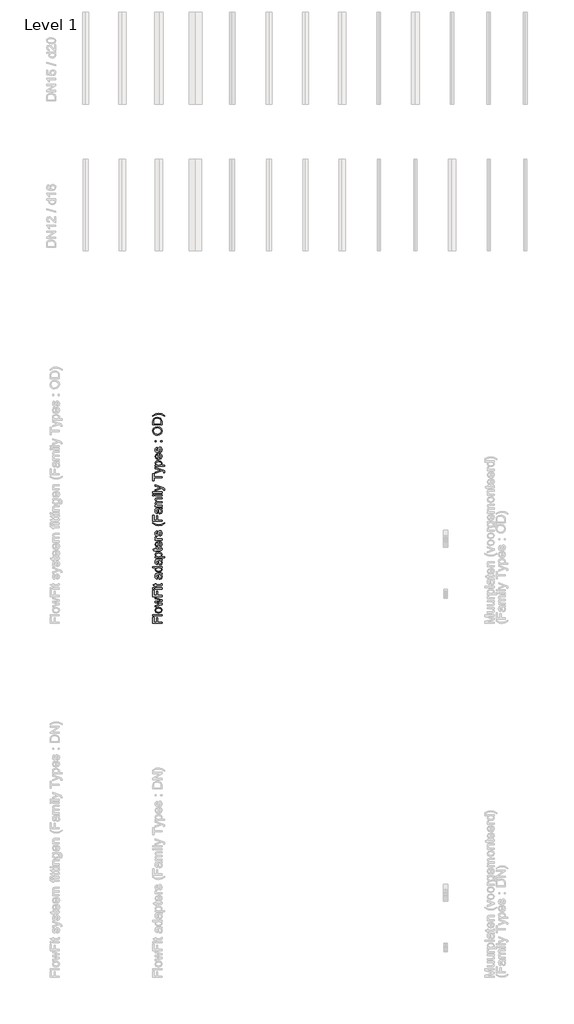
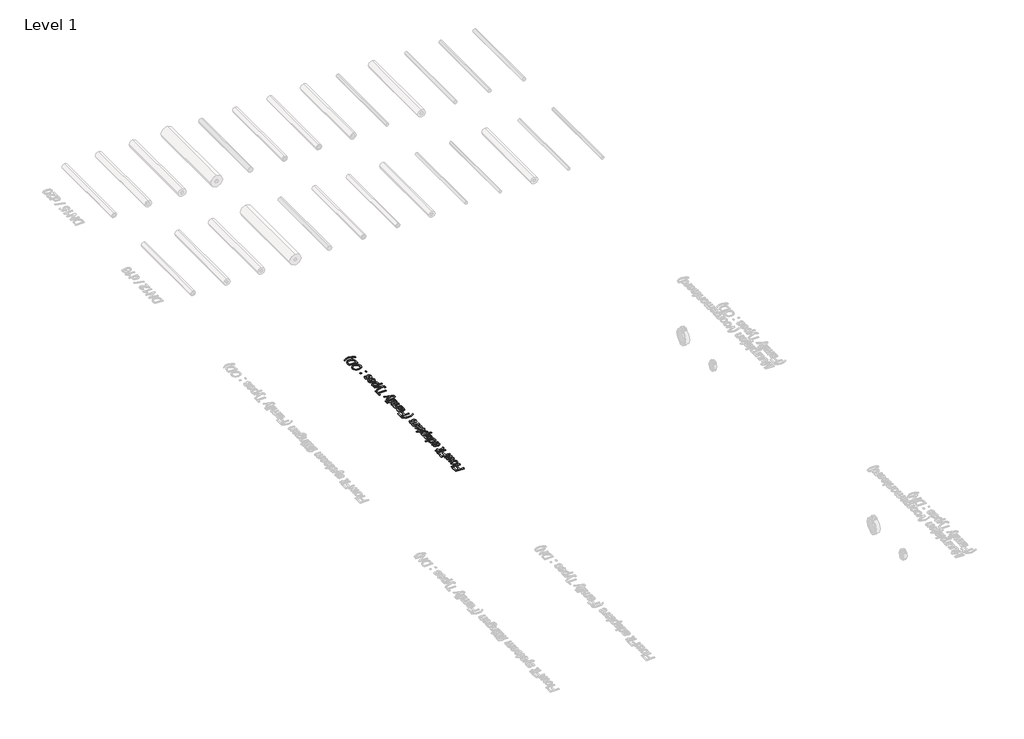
# One storey, part 7 of 11: 1 proxy.
"""IFC4 building model written with IfcOpenShell, lengths in millimetres."""

import ifcopenshell
import ifcopenshell.guid

model = None  # the IFC model being written
_history = None  # IfcOwnerHistory: only IFC2X3 demands one
_inside = {}  # id of a spatial element -> (the spatial element, [elements in it])
_under = {}  # id of a project, library or spatial element -> (it, [spatial elements below it])
_declared = {}  # id of a project -> (the project, [libraries it declares])
_typed = {}  # id of a type object -> (the type object, [elements of that type])
_made_of = {}  # id of a material, layer set ... -> (it, [elements and type objects made of it])


def new_model(schema):
    """Start an empty IFC model of exactly this schema.

    Asked for "IFC4X3", IfcOpenShell would pick the latest addendum, in which some entities
    have other attributes; the version numbers below select the first issue.
    IFC2X3 requires an IfcOwnerHistory on every rooted entity: one is made here for all.
    """
    global model, _history
    if schema == "IFC4X3":
        model = ifcopenshell.file(schema_version=(4, 3, 0, 0))
    else:
        model = ifcopenshell.file(schema=schema)
    _inside.clear()
    _under.clear()
    _declared.clear()
    _typed.clear()
    _made_of.clear()
    _history = None
    if model.schema == "IFC2X3":
        org = make("IfcOrganization", Name="unknown")
        user = make(
            "IfcPersonAndOrganization",
            ThePerson=make("IfcPerson", FamilyName="unknown"),
            TheOrganization=org,
        )
        app = make(
            "IfcApplication",
            ApplicationDeveloper=org,
            Version="unknown",
            ApplicationFullName="unknown",
            ApplicationIdentifier="unknown",
        )
        _history = make(
            "IfcOwnerHistory",
            OwningUser=user,
            OwningApplication=app,
            ChangeAction="ADDED",
            CreationDate=0,
        )
    return model


def make(cls, **values):
    """One entity of the class cls with the attributes given. An attribute that is None is left unset."""
    return model.create_entity(
        cls, **{name: value for name, value in values.items() if value is not None}
    )


def rooted(cls, **values):
    """An entity with a GlobalId (a new one), such as an element, a storey or a relation."""
    return make(cls, GlobalId=ifcopenshell.guid.new(), OwnerHistory=_history, **values)


def si_unit(unit_type, name, prefix=None):
    """IfcSIUnit, for example si_unit("LENGTHUNIT", "METRE", prefix="MILLI")."""
    return make("IfcSIUnit", UnitType=unit_type, Prefix=prefix, Name=name)


def assignment(units):
    """IfcUnitAssignment: the units of a project."""
    return None if units is None else make("IfcUnitAssignment", Units=units)


def point(xyz):
    """IfcCartesianPoint."""
    return None if xyz is None else make("IfcCartesianPoint", Coordinates=xyz)


def direction(xyz):
    """IfcDirection."""
    return None if xyz is None else make("IfcDirection", DirectionRatios=xyz)


def frame(location, z_axis=None, x_axis=None):
    """IfcAxis2Placement3D, a coordinate frame: its origin and axes. An axis left out is left unset."""
    return make(
        "IfcAxis2Placement3D",
        Location=point(location),
        Axis=direction(z_axis),
        RefDirection=direction(x_axis),
    )


def origin():
    """The frame at (0, 0, 0) with its axes left unset."""
    return frame((0.0, 0.0, 0.0))


def origin_with_axes():
    """The frame at (0, 0, 0) with the z axis (0, 0, 1) and the x axis (1, 0, 0) written out."""
    return frame((0.0, 0.0, 0.0), z_axis=(0.0, 0.0, 1.0), x_axis=(1.0, 0.0, 0.0))


def place(relative_to, where):
    """IfcLocalPlacement: puts the frame where relative to a parent placement (None: the world)."""
    return make(
        "IfcLocalPlacement", PlacementRelTo=relative_to, RelativePlacement=where
    )


def context(
    kind, dimensions, precision=None, world=None, true_north=None, identifier=None
):
    """IfcGeometricRepresentationContext, for example the 3D "Model" context."""
    return make(
        "IfcGeometricRepresentationContext",
        ContextIdentifier=identifier,
        ContextType=kind,
        CoordinateSpaceDimension=dimensions,
        Precision=precision,
        WorldCoordinateSystem=world,
        TrueNorth=true_north,
    )


def project(units=None, contexts=None):
    """IfcProject with its units and contexts."""
    return rooted(
        "IfcProject",
        Name="project",
        RepresentationContexts=contexts,
        UnitsInContext=assignment(units),
    )


def spatial(cls, under=None, at=None, **own):
    """A site, building, storey or space (cls), placed at a placement, below another one or the project."""
    s = rooted(cls, ObjectPlacement=at, **own)
    if under is not None:
        _under.setdefault(under.id(), (under, []))[1].append(s)
    return s


def polyline(points):
    """IfcPolyline through the points."""
    return make("IfcPolyline", Points=[point(p) for p in points])


def outline(outer, holes=None, kind="AREA"):
    """IfcArbitraryClosedProfileDef: a profile drawn as a closed curve; with holes, ...WithVoids."""
    if holes is None:
        return make("IfcArbitraryClosedProfileDef", ProfileType=kind, OuterCurve=outer)
    return make(
        "IfcArbitraryProfileDefWithVoids",
        ProfileType=kind,
        OuterCurve=outer,
        InnerCurves=holes,
    )


def extrude(swept, where, along, depth):
    """IfcExtrudedAreaSolid: the profile swept, set in the frame where, extruded along a direction by depth."""
    return make(
        "IfcExtrudedAreaSolid",
        SweptArea=swept,
        Position=where,
        ExtrudedDirection=direction(along),
        Depth=depth,
    )


def shape(context_of_items, identifier, shape_type, items):
    """IfcShapeRepresentation: the items that make up one representation, for example the "Body"."""
    return make(
        "IfcShapeRepresentation",
        ContextOfItems=context_of_items,
        RepresentationIdentifier=identifier,
        RepresentationType=shape_type,
        Items=items,
    )


def made_of(thing, what):
    """Note that an element or type object is made of a material, layer set ...; save() writes the relation."""
    if what is not None:
        _made_of.setdefault(what.id(), (what, []))[1].append(thing)
    return thing


def element(
    cls,
    number,
    at=None,
    inside=None,
    cuts=None,
    type_object=None,
    material=None,
    context=None,
    identifier="Body",
    shape_type=None,
    held_by="IfcProductDefinitionShape",
    body=None,
    shapes=None,
    **own,
):
    """One element of the class cls, such as IfcWall. Its Tag is "e" and its number.

    at: its placement. inside: the storey or other place that contains it. cuts: it is an
    opening in that element (IfcRelVoidsElement). A single representation is given by context,
    identifier, shape_type and body (its items); several are given by shapes. held_by: the class
    of the entity that holds the representations. save() writes the other relations.
    """
    e = rooted(cls, Tag="e%d" % number, ObjectPlacement=at, **own)
    if body is not None:
        shapes = [shape(context, identifier, shape_type, body)]
    if shapes is not None:
        e.Representation = make(held_by, Representations=shapes)
    if inside is not None:
        _inside.setdefault(inside.id(), (inside, []))[1].append(e)
    if cuts is not None:
        rooted(
            "IfcRelVoidsElement", RelatingBuildingElement=cuts, RelatedOpeningElement=e
        )
    if type_object is not None:
        _typed.setdefault(type_object.id(), (type_object, []))[1].append(e)
    return made_of(e, material)


def aggregate(whole, parts):
    """IfcRelAggregates: a whole, such as a stair, and the parts it consists of."""
    return rooted("IfcRelAggregates", RelatingObject=whole, RelatedObjects=parts)


def save(model, path):
    """Write the relations noted so far, then the file.

    IfcRelAggregates (storeys below a building ...), IfcRelContainedInSpatialStructure (elements
    in a storey), IfcRelDefinesByType, IfcRelAssociatesMaterial and IfcRelDeclares: one each for
    every whole, place, type object, material and project.
    """
    for whole, parts in _under.values():
        aggregate(whole, parts)
    for where, things in _inside.values():
        rooted(
            "IfcRelContainedInSpatialStructure",
            RelatedElements=things,
            RelatingStructure=where,
        )
    for kind, things in _typed.values():
        rooted("IfcRelDefinesByType", RelatedObjects=things, RelatingType=kind)
    for what, things in _made_of.values():
        rooted("IfcRelAssociatesMaterial", RelatedObjects=things, RelatingMaterial=what)
    for by, libraries in _declared.values():
        rooted("IfcRelDeclares", RelatingContext=by, RelatedDefinitions=libraries)
    model.write(path)


model = new_model("IFC4")

# Units and contexts
model_context = context("Model", 3, world=origin())
ifc_project = project(units=[si_unit("LENGTHUNIT", "METRE", prefix="MILLI")], contexts=[model_context])

# Site, building, storey
site = spatial("IfcSite", under=ifc_project)
building = spatial("IfcBuilding", under=site)
storey = spatial("IfcBuildingStorey", under=building, Name="Level 1", Elevation=0.0)

# Proxy
placement = place(None, origin())
element("IfcBuildingElementProxy", 1, Name="S", ObjectType="S", at=placement, inside=storey, context=model_context, shape_type="SweptSolid", body=[
    extrude(outline(polyline([(751.7931305, 2058.4123634), (701.5649754, 2058.4123634), (701.5649754, 2092.1594051), (707.8434948, 2092.1594051), (707.8434948, 2064.6908828), (722.7549783, 2064.6908828), (722.7549783, 2088.2353305), (729.0334977, 2088.2353305), (729.0334977, 2064.6908828), (751.7931305, 2064.6908828), (751.7931305, 2058.4123634)])), origin_with_axes(), (0.0, 0.0, 1.0), 3.0),
    extrude(outline(polyline([(751.7931305, 2100.0075544), (701.5649754, 2100.0075544), (701.5649754, 2106.2860737), (751.7931305, 2106.2860737), (751.7931305, 2100.0075544)])), origin_with_axes(), (0.0, 0.0, 1.0), 3.0),
    extrude(outline(polyline([(733.3499798, 2114.134223), (724.4564326, 2115.4923207), (718.2055043, 2119.5666138), (714.1220142, 2130.6275991), (719.0945525, 2142.4917934), (732.834945, 2147.0964497), (744.0062949, 2145.060836), (750.3277339, 2139.1318045), (752.5779454, 2130.6275991), (747.6238012, 2118.6898283), (733.3499798, 2114.134223)]), holes=[polyline([(733.3377171, 2120.4127424), (743.0681958, 2123.3190101), (746.299426, 2130.6275991), (743.0498017, 2137.9116626), (733.1415133, 2140.8179304), (723.6317638, 2137.8932685), (720.4005336, 2130.6275991), (723.619501, 2123.3190101), (733.3377171, 2120.4127424)])]), origin_with_axes(), (0.0, 0.0, 1.0), 3.0),
    extrude(outline(polyline([(751.7931305, 2160.2788879), (714.9068291, 2149.058487), (714.9068291, 2155.5822611), (736.4279258, 2161.9466196), (744.1166595, 2163.8473433), (736.7099687, 2165.4047104), (714.9068291, 2170.4692192), (714.9068291, 2177.9494864), (736.648655, 2182.9894697), (743.3563701, 2184.3751586), (736.280773, 2186.3617214), (714.9068291, 2192.7383426), (714.9068291, 2199.2866421), (751.7931305, 2187.9804021), (751.7931305, 2180.3897703), (730.1616692, 2175.5705162), (723.4171659, 2174.1725646), (751.7931305, 2167.9553589), (751.7931305, 2160.2788879)])), origin_with_axes(), (0.0, 0.0, 1.0), 3.0),
    extrude(outline(polyline([(751.7931305, 2204.3879391), (701.5649754, 2204.3879391), (701.5649754, 2238.1349808), (707.8434948, 2238.1349808), (707.8434948, 2210.6664585), (722.7549783, 2210.6664585), (722.7549783, 2234.2109062), (729.0334977, 2234.2109062), (729.0334977, 2210.6664585), (751.7931305, 2210.6664585), (751.7931305, 2204.3879391)])), origin_with_axes(), (0.0, 0.0, 1.0), 3.0),
    extrude(outline(polyline([(751.7931305, 2245.98313), (714.9068291, 2245.98313), (714.9068291, 2252.2616494), (751.7931305, 2252.2616494), (751.7931305, 2245.98313)])), origin_with_axes(), (0.0, 0.0, 1.0), 3.0),
    extrude(outline(polyline([(707.8434948, 2245.98313), (701.5649754, 2245.98313), (701.5649754, 2252.2616494), (707.8434948, 2252.2616494), (707.8434948, 2245.98313)])), origin_with_axes(), (0.0, 0.0, 1.0), 3.0),
    extrude(outline(polyline([(746.5569434, 2275.0212822), (751.9770715, 2275.8060971), (752.5779454, 2271.1094703), (751.5356131, 2265.8487578), (748.8010236, 2263.2245329), (741.6763756, 2262.4642434), (721.1853485, 2262.4642434), (721.1853485, 2257.7553539), (714.9068291, 2257.7553539), (714.9068291, 2262.4642434), (705.9427712, 2262.4642434), (702.2516885, 2268.7427628), (714.9068291, 2268.7427628), (714.9068291, 2275.0212822), (721.1853485, 2275.0212822), (721.1853485, 2268.7427628), (741.4924346, 2268.7427628), (744.7297962, 2269.0738566), (746.299426, 2272.2866927), (746.5569434, 2275.0212822)])), origin_with_axes(), (0.0, 0.0, 1.0), 3.0),
    extrude(outline(polyline([(747.084241, 2324.4646223), (751.3394094, 2318.3761753), (752.5779454, 2311.6500662), (749.5981013, 2302.5327241), (741.982944, 2299.3505448), (737.016537, 2300.5522927), (733.4112935, 2303.7099465), (731.3511543, 2308.1061363), (730.4069238, 2313.5385271), (728.2486828, 2324.4278341), (722.2154181, 2322.735577), (720.4005336, 2315.79487), (721.6084128, 2309.4427742), (725.894238, 2306.4138791), (725.1094231, 2300.1353597), (718.9780565, 2302.8515551), (715.3850757, 2308.3207341), (714.1220142, 2316.6042104), (715.2379229, 2324.2132363), (718.0399574, 2328.5113243), (722.3012572, 2330.4365734), (727.7949617, 2330.7431417), (735.6063227, 2330.7431417), (746.5140239, 2331.0619728), (751.7931305, 2332.3127716), (751.7931305, 2326.0342522), (747.084241, 2324.4646223)]), holes=[polyline([(734.5272022, 2324.4646223), (736.4524513, 2314.3356047), (737.4702581, 2308.9338708), (739.1257271, 2306.4874555), (741.5414856, 2305.6290642), (744.9382626, 2307.499131), (746.299426, 2312.9867041), (744.7972412, 2319.3387999), (741.1613408, 2323.4345528), (736.3052985, 2324.4278341), (734.5272022, 2324.4646223)])]), origin_with_axes(), (0.0, 0.0, 1.0), 3.0),
    extrude(outline(polyline([(751.7931305, 2362.1357387), (745.8702304, 2362.1357387), (750.9010167, 2357.9817378), (752.5779454, 2352.239713), (750.1499242, 2344.4651402), (743.3747642, 2338.9714357), (733.386768, 2337.0216611), (723.3926405, 2338.8181515), (716.5132472, 2344.2014914), (714.1220142, 2352.2151875), (715.8326655, 2358.0031976), (720.2779062, 2362.1357387), (701.5649754, 2362.1357387), (701.5649754, 2368.414258), (751.7931305, 2368.414258), (751.7931305, 2362.1357387)]), holes=[polyline([(733.3622425, 2343.3001805), (743.0804586, 2346.1328719), (746.299426, 2352.8160614), (743.2276114, 2359.4195433), (733.8404891, 2362.1357387), (723.6501579, 2359.3704923), (720.4005336, 2352.558544), (723.5213992, 2345.9489309), (733.3622425, 2343.3001805)])]), origin_with_axes(), (0.0, 0.0, 1.0), 3.0),
    extrude(outline(polyline([(747.084241, 2401.3764848), (751.3394094, 2395.2880378), (752.5779454, 2388.5619286), (749.5981013, 2379.4445865), (741.982944, 2376.2624073), (737.016537, 2377.4641551), (733.4112935, 2380.6218089), (731.3511543, 2385.0179988), (730.4069238, 2390.4503895), (728.2486828, 2401.3396966), (722.2154181, 2399.6474394), (720.4005336, 2392.7067325), (721.6084128, 2386.3546367), (725.894238, 2383.3257416), (725.1094231, 2377.0472222), (718.9780565, 2379.7634176), (715.3850757, 2385.2325966), (714.1220142, 2393.5160728), (715.2379229, 2401.1250988), (718.0399574, 2405.4231868), (722.3012572, 2407.3484359), (727.7949617, 2407.6550042), (735.6063227, 2407.6550042), (746.5140239, 2407.9738353), (751.7931305, 2409.224634), (751.7931305, 2402.9461147), (747.084241, 2401.3764848)]), holes=[polyline([(734.5272022, 2401.3764848), (736.4524513, 2391.2474672), (737.4702581, 2385.8457332), (739.1257271, 2383.399318), (741.5414856, 2382.5409267), (744.9382626, 2384.4109935), (746.299426, 2389.8985666), (744.7972412, 2396.2506623), (741.1613408, 2400.3464152), (736.3052985, 2401.3396966), (734.5272022, 2401.3764848)])]), origin_with_axes(), (0.0, 0.0, 1.0), 3.0),
    extrude(outline(polyline([(765.9197991, 2416.2879683), (714.9068291, 2416.2879683), (714.9068291, 2422.5664877), (721.0627212, 2422.5664877), (715.8571909, 2426.9074953), (714.1220142, 2432.7690817), (716.5500354, 2440.7275956), (723.3926405, 2445.9269944), (733.0679369, 2447.6805653), (743.2398741, 2445.7001339), (750.1683183, 2439.948912), (752.5779454, 2432.0087923), (750.965396, 2426.5457446), (746.8880372, 2422.5664877), (765.9197991, 2422.5664877), (765.9197991, 2416.2879683)]), holes=[polyline([(733.6442854, 2422.5664877), (743.2092173, 2425.2826831), (746.299426, 2431.8739022), (743.0988527, 2438.6000114), (733.1783015, 2441.4020459), (723.5888442, 2438.6674564), (720.4005336, 2432.1314196), (723.7911793, 2425.4666241), (733.6442854, 2422.5664877)])]), origin_with_axes(), (0.0, 0.0, 1.0), 3.0),
    extrude(outline(polyline([(746.5569434, 2468.0857533), (751.9770715, 2468.8705682), (752.5779454, 2464.1739414), (751.5356131, 2458.9132289), (748.8010236, 2456.289004), (741.6763756, 2455.5287145), (721.1853485, 2455.5287145), (721.1853485, 2450.819825), (714.9068291, 2450.819825), (714.9068291, 2455.5287145), (705.9427712, 2455.5287145), (702.2516885, 2461.8072339), (714.9068291, 2461.8072339), (714.9068291, 2468.0857533), (721.1853485, 2468.0857533), (721.1853485, 2461.8072339), (741.4924346, 2461.8072339), (744.7297962, 2462.1383277), (746.299426, 2465.3511638), (746.5569434, 2468.0857533)])), origin_with_axes(), (0.0, 0.0, 1.0), 3.0),
    extrude(outline(polyline([(740.8057216, 2500.1895887), (741.5905365, 2506.3454808), (749.6962031, 2500.5881275), (752.5779454, 2489.8643674), (747.6054071, 2476.829082), (733.6565481, 2472.0098279), (719.2478367, 2476.8781329), (714.1220142, 2489.5087481), (719.2355739, 2501.7776127), (733.6197599, 2506.5416845), (735.3120171, 2506.5048963), (735.3120171, 2478.2883473), (743.4667347, 2481.8997222), (746.299426, 2489.9869947), (744.9873136, 2496.1428868), (740.8057216, 2500.1895887)]), holes=[polyline([(729.0334977, 2478.2883473), (729.0334977, 2500.2631651), (723.3435895, 2497.7493048), (720.4005336, 2489.4842227), (722.748847, 2481.7525694), (729.0334977, 2478.2883473)])]), origin_with_axes(), (0.0, 0.0, 1.0), 3.0),
    extrude(outline(polyline([(751.7931305, 2512.8202039), (714.9068291, 2512.8202039), (714.9068291, 2518.3139083), (720.3637454, 2518.3139083), (715.3360248, 2522.2134575), (714.1220142, 2526.1375321), (716.059526, 2532.440577), (721.6881206, 2530.3436496), (720.4005336, 2525.9290656), (721.6390696, 2522.3790044), (725.0726349, 2520.1165301), (732.4057493, 2519.0987233), (751.7931305, 2519.0987233), (751.7931305, 2512.8202039)])), origin_with_axes(), (0.0, 0.0, 1.0), 3.0),
    extrude(outline(polyline([(740.8057216, 2534.0102068), (740.0209066, 2540.2887262), (744.6807453, 2543.1949939), (746.299426, 2549.8536581), (744.8156353, 2556.2548048), (741.3330191, 2558.3394694), (738.5125905, 2556.242542), (736.7222314, 2549.7800817), (733.6504168, 2540.3255144), (730.0635673, 2536.1991047), (724.9990585, 2534.7950217), (720.3208258, 2535.9231932), (716.7462391, 2539.0011392), (714.888435, 2542.9926588), (714.1220142, 2548.3943928), (715.3544189, 2556.0340756), (718.6898823, 2560.8901179), (724.3246082, 2563.048359), (725.1094231, 2556.7698396), (721.645201, 2554.4092634), (720.4005336, 2548.8849021), (721.5900187, 2542.8761629), (724.3613964, 2541.0735411), (726.1885436, 2541.8215678), (727.5742325, 2544.1637499), (728.9108704, 2549.5716152), (731.8661891, 2558.7870592), (735.2139152, 2563.0667531), (740.6708315, 2564.6179888), (746.6795708, 2562.7969729), (751.0389724, 2557.5423918), (752.5779454, 2549.7678189), (749.610364, 2538.8171982), (740.8057216, 2534.0102068)])), origin_with_axes(), (0.0, 0.0, 1.0), 3.0),
    extrude(outline(polyline([(765.9197991, 2603.858735), (751.1922566, 2594.9437279), (733.7055991, 2591.3016962), (718.4384963, 2594.0240229), (701.5649754, 2603.858735), (701.5649754, 2608.5676245), (711.510052, 2602.6937753), (721.1485603, 2599.1621081), (733.7423873, 2597.5802156), (749.8372246, 2600.3270678), (765.9197991, 2608.5676245), (765.9197991, 2603.858735)])), origin_with_axes(), (0.0, 0.0, 1.0), 3.0),
    extrude(outline(polyline([(751.7931305, 2615.6309588), (701.5649754, 2615.6309588), (701.5649754, 2649.3780005), (707.8434948, 2649.3780005), (707.8434948, 2621.9094782), (722.7549783, 2621.9094782), (722.7549783, 2645.4539259), (729.0334977, 2645.4539259), (729.0334977, 2621.9094782), (751.7931305, 2621.9094782), (751.7931305, 2615.6309588)])), origin_with_axes(), (0.0, 0.0, 1.0), 3.0),
    extrude(outline(polyline([(747.084241, 2680.7705974), (751.3394094, 2674.6821504), (752.5779454, 2667.9560412), (749.5981013, 2658.8386991), (741.982944, 2655.6565199), (737.016537, 2656.8582677), (733.4112935, 2660.0159215), (731.3511543, 2664.4121114), (730.4069238, 2669.8445022), (728.2486828, 2680.7338092), (722.2154181, 2679.041552), (720.4005336, 2672.1008451), (721.6084128, 2665.7487493), (725.894238, 2662.7198542), (725.1094231, 2656.4413348), (718.9780565, 2659.1575302), (715.3850757, 2664.6267092), (714.1220142, 2672.9101854), (715.2379229, 2680.5192114), (718.0399574, 2684.8172994), (722.3012572, 2686.7425485), (727.7949617, 2687.0491168), (735.6063227, 2687.0491168), (746.5140239, 2687.3679479), (751.7931305, 2688.6187466), (751.7931305, 2682.3402273), (747.084241, 2680.7705974)]), holes=[polyline([(734.5272022, 2680.7705974), (736.4524513, 2670.6415798), (737.4702581, 2665.2398458), (739.1257271, 2662.7934306), (741.5414856, 2661.9350393), (744.9382626, 2663.8051061), (746.299426, 2669.2926792), (744.7972412, 2675.6447749), (741.1613408, 2679.7405278), (736.3052985, 2680.7338092), (734.5272022, 2680.7705974)])]), origin_with_axes(), (0.0, 0.0, 1.0), 3.0),
    extrude(outline(polyline([(751.7931305, 2695.6820809), (714.9068291, 2695.6820809), (714.9068291, 2701.9606003), (720.976882, 2701.9606003), (716.0043437, 2706.2770824), (714.1220142, 2712.4207117), (716.0411319, 2718.7114938), (721.4183404, 2722.1695846), (715.9460957, 2727.0685465), (714.1220142, 2733.2550954), (717.1570406, 2741.4649952), (726.5073747, 2744.3406062), (751.7931305, 2744.3406062), (751.7931305, 2738.0620868), (729.205176, 2738.0620868), (723.9628576, 2737.479607), (721.3815522, 2735.3704169), (720.4005336, 2731.7835674), (722.9143939, 2725.6092813), (730.9710096, 2723.1506033), (751.7931305, 2723.1506033), (751.7931305, 2716.8720839), (728.5062002, 2716.8720839), (722.4238845, 2715.41895), (720.4005336, 2710.6548782), (721.7494342, 2706.0073023), (725.6980343, 2702.9170935), (733.1905643, 2701.9606003), (751.7931305, 2701.9606003), (751.7931305, 2695.6820809)])), origin_with_axes(), (0.0, 0.0, 1.0), 3.0),
    extrude(outline(polyline([(707.8434948, 2753.7583853), (701.5649754, 2753.7583853), (701.5649754, 2760.0369046), (707.8434948, 2760.0369046), (707.8434948, 2753.7583853)])), origin_with_axes(), (0.0, 0.0, 1.0), 3.0),
    extrude(outline(polyline([(751.7931305, 2753.7583853), (714.9068291, 2753.7583853), (714.9068291, 2760.0369046), (751.7931305, 2760.0369046), (751.7931305, 2753.7583853)])), origin_with_axes(), (0.0, 0.0, 1.0), 3.0),
    extrude(outline(polyline([(751.7931305, 2769.4546837), (701.5649754, 2769.4546837), (701.5649754, 2775.7332031), (751.7931305, 2775.7332031), (751.7931305, 2769.4546837)])), origin_with_axes(), (0.0, 0.0, 1.0), 3.0),
    extrude(outline(polyline([(765.9197991, 2785.1509822), (759.8742717, 2784.3661673), (760.4260946, 2787.5544779), (759.7332502, 2790.534322), (757.8018697, 2792.3614693), (753.1788193, 2794.0782519), (751.6582404, 2794.5687613), (714.9068291, 2781.2269076), (714.9068291, 2787.8487835), (735.3855935, 2794.9243805), (743.5770993, 2797.3891899), (736.3420867, 2799.8539992), (714.9068291, 2807.1258), (714.9068291, 2813.698625), (752.6760473, 2800.8595434), (760.867553, 2797.5240799), (765.2943997, 2793.8820482), (766.704614, 2788.9892177), (765.9197991, 2785.1509822)])), origin_with_axes(), (0.0, 0.0, 1.0), 3.0),
    extrude(outline(polyline([(751.7931305, 2851.8602506), (707.8434948, 2851.8602506), (707.8434948, 2835.3791372), (701.5649754, 2835.3791372), (701.5649754, 2874.6198834), (707.8434948, 2874.6198834), (707.8434948, 2858.13877), (751.7931305, 2858.13877), (751.7931305, 2851.8602506)])), origin_with_axes(), (0.0, 0.0, 1.0), 3.0),
    extrude(outline(polyline([(765.9197991, 2880.8984028), (759.8742717, 2880.1135879), (760.4260946, 2883.3018985), (759.7332502, 2886.2817426), (757.8018697, 2888.1088899), (753.1788193, 2889.8256725), (751.6582404, 2890.3161819), (714.9068291, 2876.9743282), (714.9068291, 2883.5962041), (735.3855935, 2890.6718011), (743.5770993, 2893.1366105), (736.3420867, 2895.6014199), (714.9068291, 2902.8732206), (714.9068291, 2909.4460456), (752.6760473, 2896.606964), (760.867553, 2893.2715006), (765.2943997, 2889.6294688), (766.704614, 2884.7366383), (765.9197991, 2880.8984028)])), origin_with_axes(), (0.0, 0.0, 1.0), 3.0),
    extrude(outline(polyline([(765.9197991, 2914.6454445), (714.9068291, 2914.6454445), (714.9068291, 2920.9239639), (721.0627212, 2920.9239639), (715.8571909, 2925.2649714), (714.1220142, 2931.1265579), (716.5500354, 2939.0850717), (723.3926405, 2944.2844706), (733.0679369, 2946.0380414), (743.2398741, 2944.05761), (750.1683183, 2938.3063881), (752.5779454, 2930.3662684), (750.965396, 2924.9032208), (746.8880372, 2920.9239639), (765.9197991, 2920.9239639), (765.9197991, 2914.6454445)]), holes=[polyline([(733.6442854, 2920.9239639), (743.2092173, 2923.6401593), (746.299426, 2930.2313783), (743.0988527, 2936.9574875), (733.1783015, 2939.759522), (723.5888442, 2937.0249325), (720.4005336, 2930.4888957), (723.7911793, 2923.8241003), (733.6442854, 2920.9239639)])]), origin_with_axes(), (0.0, 0.0, 1.0), 3.0),
    extrude(outline(polyline([(740.8057216, 2978.9266918), (741.5905365, 2985.0825838), (749.6962031, 2979.3252306), (752.5779454, 2968.6014704), (747.6054071, 2955.5661851), (733.6565481, 2950.7469309), (719.2478367, 2955.615236), (714.1220142, 2968.2458512), (719.2355739, 2980.5147157), (733.6197599, 2985.2787876), (735.3120171, 2985.2419994), (735.3120171, 2957.0254503), (743.4667347, 2960.6368252), (746.299426, 2968.7240978), (744.9873136, 2974.8799898), (740.8057216, 2978.9266918)]), holes=[polyline([(729.0334977, 2957.0254503), (729.0334977, 2979.0002682), (723.3435895, 2976.4864079), (720.4005336, 2968.2213257), (722.748847, 2960.4896724), (729.0334977, 2957.0254503)])]), origin_with_axes(), (0.0, 0.0, 1.0), 3.0),
    extrude(outline(polyline([(740.8057216, 2989.2028622), (740.0209066, 2995.4813816), (744.6807453, 2998.3876493), (746.299426, 3005.0463134), (744.8156353, 3011.4474601), (741.3330191, 3013.5321248), (738.5125905, 3011.4351974), (736.7222314, 3004.972737), (733.6504168, 2995.5181697), (730.0635673, 2991.39176), (724.9990585, 2989.9876771), (720.3208258, 2991.1158485), (716.7462391, 2994.1937946), (714.888435, 2998.1853142), (714.1220142, 3003.5870482), (715.3544189, 3011.2267309), (718.6898823, 3016.0827733), (724.3246082, 3018.2410143), (725.1094231, 3011.9624949), (721.645201, 3009.6019188), (720.4005336, 3004.0775575), (721.5900187, 2998.0688182), (724.3613964, 2996.2661965), (726.1885436, 2997.0142232), (727.5742325, 2999.3564052), (728.9108704, 3004.7642706), (731.8661891, 3013.9797145), (735.2139152, 3018.2594084), (740.6708315, 3019.8106442), (746.6795708, 3017.9896283), (751.0389724, 3012.7350471), (752.5779454, 3004.9604743), (749.610364, 2994.0098536), (740.8057216, 2989.2028622)])), origin_with_axes(), (0.0, 0.0, 1.0), 3.0),
    extrude(outline(polyline([(721.1853485, 3048.0639814), (714.9068291, 3048.0639814), (714.9068291, 3054.3425008), (721.1853485, 3054.3425008), (721.1853485, 3048.0639814)])), origin_with_axes(), (0.0, 0.0, 1.0), 3.0),
    extrude(outline(polyline([(751.7931305, 3048.0639814), (745.5146111, 3048.0639814), (745.5146111, 3054.3425008), (751.7931305, 3054.3425008), (751.7931305, 3048.0639814)])), origin_with_axes(), (0.0, 0.0, 1.0), 3.0),
    extrude(outline(polyline([(727.3412405, 3084.1654679), (716.23427, 3085.8393309), (707.8312321, 3090.8609202), (702.5429284, 3098.5281941), (700.7801605, 3108.1391112), (704.0910985, 3120.6348363), (713.3249365, 3129.1206477), (726.7648921, 3132.0391782), (740.3887886, 3128.9673635), (749.4877367, 3120.2608229), (752.5779454, 3108.102323), (749.1627742, 3095.4717078), (739.843097, 3087.0349474), (727.3412405, 3084.1654679)]), holes=[polyline([(727.4025542, 3090.4439872), (741.24718, 3095.4655765), (746.299426, 3108.0655348), (741.198129, 3120.7758577), (726.7158412, 3125.7606588), (716.3538316, 3123.6269432), (709.4928324, 3117.3913434), (707.0586799, 3108.1758994), (711.7491753, 3095.6801743), (718.0077678, 3091.753034), (727.4025542, 3090.4439872)])]), origin_with_axes(), (0.0, 0.0, 1.0), 3.0),
    extrude(outline(polyline([(751.7931305, 3140.6721423), (701.5649754, 3140.6721423), (701.5649754, 3157.9993843), (702.2884767, 3166.9634422), (705.8814575, 3174.3456076), (714.4653707, 3180.2930332), (726.4092728, 3182.2673332), (736.5444218, 3180.9306953), (743.8591421, 3177.49713), (748.4147475, 3172.9108678), (750.9347392, 3166.9082599), (751.7931305, 3158.8332501), (751.7931305, 3140.6721423)]), holes=[polyline([(745.5146111, 3146.9506617), (745.5146111, 3158.060698), (744.6071689, 3166.1418391), (742.0442576, 3170.8016777), (735.8086578, 3174.6215191), (726.311171, 3175.9888139), (714.4163198, 3173.3094067), (708.8490389, 3166.791764), (707.8434948, 3157.8890197), (707.8434948, 3146.9506617), (745.5146111, 3146.9506617)])]), origin_with_axes(), (0.0, 0.0, 1.0), 3.0),
    extrude(outline(polyline([(765.9197991, 3191.6851123), (765.9197991, 3186.9762228), (749.8372246, 3195.2167795), (733.7423873, 3197.9636317), (721.2589249, 3196.3817391), (711.6081539, 3192.8868602), (701.5649754, 3186.9762228), (701.5649754, 3191.6851123), (718.4384963, 3201.5198243), (733.7055991, 3204.2421511), (751.1922566, 3200.5817252), (765.9197991, 3191.6851123)])), origin_with_axes(), (0.0, 0.0, 1.0), 3.0),
])

save(model, "model.ifc")
